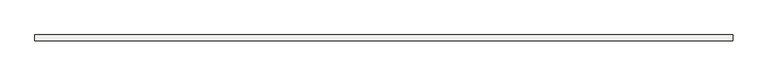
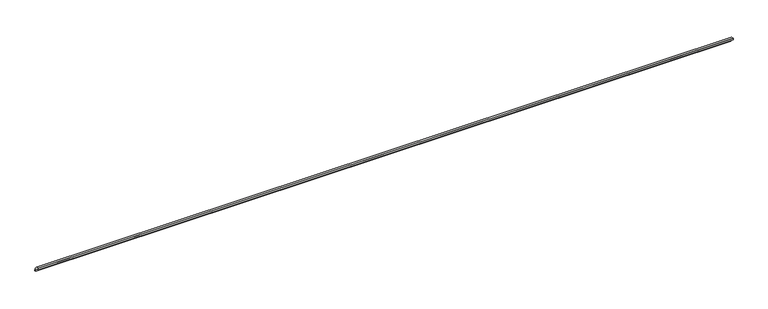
"""IFC4 building model written with IfcOpenShell, lengths in millimetres: slab geometry, ROSA GRES_138 : Pieza 138_Aqua_Plomo_Anti-Slip."""

from ifc_helpers import new_model, si_unit, point, frame, frame_2d, origin, origin_2d, place, context, project, spatial, polyline, circle_curve, trimmed, segment, composite_curve, outline, extrude, source, transform, mapped, element, save


def slab_b4be717a(model_context):
    return source(origin(), model_context, "Body", "SweptSolid", [
        extrude(outline(composite_curve([segment(trimmed(circle_curve(origin_2d(), 40.0), [point((0.0, 40.0))], [point((40.0, 0.0))], False, "CARTESIAN"), True, "CONTINUOUS"), segment(polyline([(40.0, 0.0), (30.0265886, 0.0)]), True, "CONTINUOUS"), segment(trimmed(circle_curve(frame_2d((0.0044453, 0.0044453)), 30.0221435), [point((30.0265886, 0.0))], [point((0.0, 30.0265886))], True, "CARTESIAN"), True, "CONTINUOUS"), segment(polyline([(0.0, 30.0265886), (0.0, 40.0)]), True, "CONTINUOUS")], self_intersect=False)), frame((0.0, 0.0, 0.0), z_axis=(1.0, 0.0, 0.0), x_axis=(0.0, 1.0, 0.0)), (0.0, 0.0, 1.0), 4760.0),
    ])


if __name__ == "__main__":
    model = new_model("IFC4")
    model_context = context("Model", 3, world=origin())
    ifc_project = project(units=[si_unit("LENGTHUNIT", "METRE", prefix="MILLI")], contexts=[model_context])
    site = spatial("IfcSite", under=ifc_project)
    building = spatial("IfcBuilding", under=site)
    placement = place(None, origin())
    slab_shape = slab_b4be717a(model_context)
    element("IfcSlab", 1, ObjectType="ROSA GRES_138 : Pieza 138_Aqua_Plomo_Anti-Slip", at=placement, inside=building, context=model_context, shape_type="MappedRepresentation", body=[
        mapped(slab_shape, transform((0.0, 0.0, 0.0), x_axis=(1.0, 0.0, 0.0), y_axis=(0.0, 1.0, 0.0), z_axis=(0.0, 0.0, 1.0))),
    ])
    save(model, "model.ifc")
